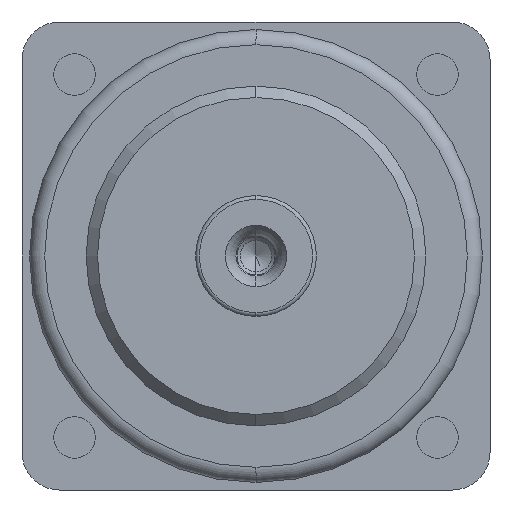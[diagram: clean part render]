
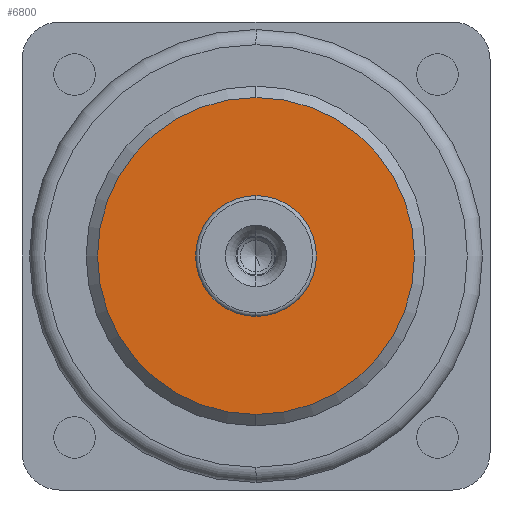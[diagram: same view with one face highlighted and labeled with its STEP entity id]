
A CAD part, left-side view. The second image highlights one B-rep face of the part: STEP entity #6800.
In plain terms, the highlighted planar face has unit normal (-1, 0, 0) as drawn and (0, 0, -1) by its records, which use the part's own axes.
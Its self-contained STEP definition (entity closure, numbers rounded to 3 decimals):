
#3867=CARTESIAN_POINT('',(0.,0.,-20.));
#3868=DIRECTION('',(0.,0.,-1.));
#3869=DIRECTION('',(0.,-1.,0.));
#3870=AXIS2_PLACEMENT_3D('',#3867,#3868,#3869);
#3872=CARTESIAN_POINT('',(0.,0.,-20.));
#3873=DIRECTION('',(0.,0.,1.));
#3874=DIRECTION('',(0.,-1.,0.));
#3875=AXIS2_PLACEMENT_3D('',#3872,#3873,#3874);
#3877=CARTESIAN_POINT('',(0.,0.,-20.));
#3878=DIRECTION('',(0.,0.,1.));
#3879=DIRECTION('',(0.,-1.,0.));
#3880=AXIS2_PLACEMENT_3D('',#3877,#3878,#3879);
#3890=CARTESIAN_POINT('',(0.,0.,-20.));
#3891=DIRECTION('',(0.,0.,-1.));
#3892=DIRECTION('',(0.,-1.,0.));
#3893=AXIS2_PLACEMENT_3D('',#3890,#3891,#3892);
#4277=CARTESIAN_POINT('',(0.,-8.,-20.));
#4279=VERTEX_POINT('',#4277);
#4283=CARTESIAN_POINT('',(0.,8.,-20.));
#4285=VERTEX_POINT('',#4283);
#4289=CARTESIAN_POINT('',(0.,-21.,-20.));
#4290=CARTESIAN_POINT('',(0.,21.,-20.));
#4291=VERTEX_POINT('',#4289);
#4292=VERTEX_POINT('',#4290);
#6785=CARTESIAN_POINT('',(0.,0.,-20.));
#6786=DIRECTION('',(0.,0.,1.));
#6787=DIRECTION('',(0.,1.,0.));
#6788=AXIS2_PLACEMENT_3D('',#6785,#6786,#6787);
#6789=PLANE('',#6788);
#6790=ORIENTED_EDGE('',*,*,#6779,.F.);
#6791=ORIENTED_EDGE('',*,*,#6765,.T.);
#6792=EDGE_LOOP('',(#6790,#6791));
#6793=FACE_OUTER_BOUND('',#6792,.F.);
#6795=ORIENTED_EDGE('',*,*,#6794,.F.);
#6797=ORIENTED_EDGE('',*,*,#6796,.T.);
#6798=EDGE_LOOP('',(#6795,#6797));
#6799=FACE_BOUND('',#6798,.F.);
#6800=ADVANCED_FACE('',(#6793,#6799),#6789,.F.);
#3871=CIRCLE('',#3870,21.);
#3876=CIRCLE('',#3875,21.);
#3881=CIRCLE('',#3880,8.);
#3894=CIRCLE('',#3893,8.);
#6765=EDGE_CURVE('',#4291,#4292,#3876,.T.);
#6779=EDGE_CURVE('',#4291,#4292,#3871,.T.);
#6794=EDGE_CURVE('',#4279,#4285,#3881,.T.);
#6796=EDGE_CURVE('',#4279,#4285,#3894,.T.);
